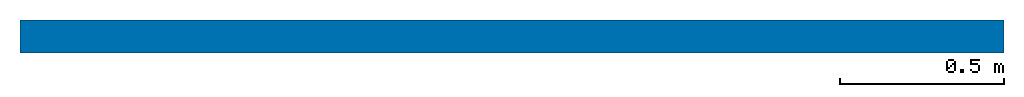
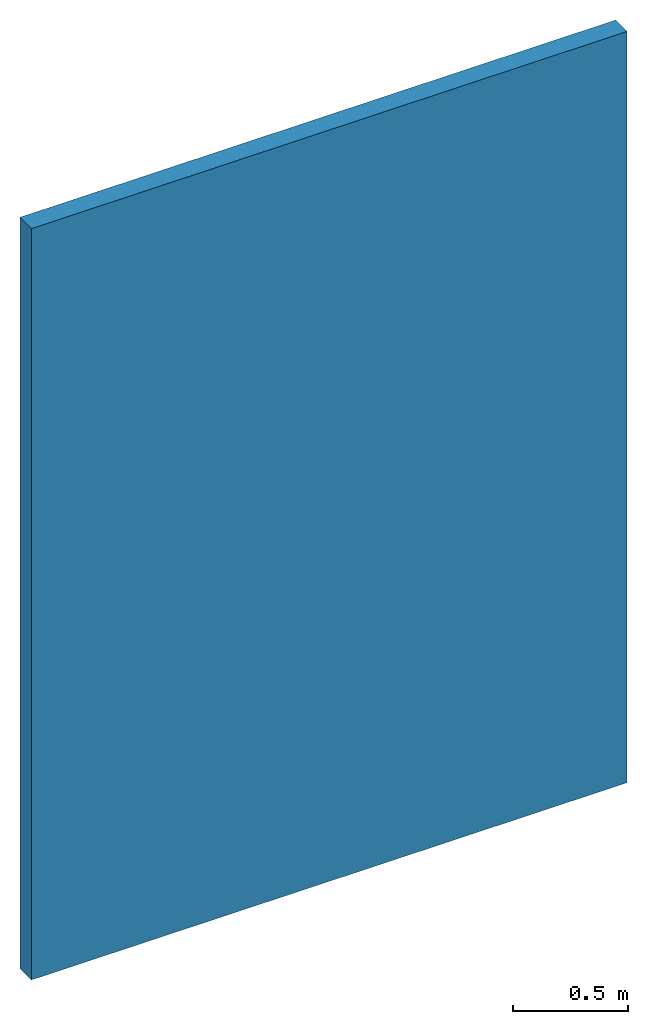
# One storey: 1 wall.
"""IFC2X3 building model written with IfcOpenShell, lengths in millimetres."""

import ifcopenshell
import ifcopenshell.guid

model = None  # the IFC model being written
_history = None  # IfcOwnerHistory: only IFC2X3 demands one
_inside = {}  # id of a spatial element -> (the spatial element, [elements in it])
_under = {}  # id of a project, library or spatial element -> (it, [spatial elements below it])
_declared = {}  # id of a project -> (the project, [libraries it declares])
_typed = {}  # id of a type object -> (the type object, [elements of that type])
_made_of = {}  # id of a material, layer set ... -> (it, [elements and type objects made of it])


def new_model(schema):
    """Start an empty IFC model of exactly this schema.

    Asked for "IFC4X3", IfcOpenShell would pick the latest addendum, in which some entities
    have other attributes; the version numbers below select the first issue.
    IFC2X3 requires an IfcOwnerHistory on every rooted entity: one is made here for all.
    """
    global model, _history
    if schema == "IFC4X3":
        model = ifcopenshell.file(schema_version=(4, 3, 0, 0))
    else:
        model = ifcopenshell.file(schema=schema)
    _inside.clear()
    _under.clear()
    _declared.clear()
    _typed.clear()
    _made_of.clear()
    _history = None
    if model.schema == "IFC2X3":
        org = make("IfcOrganization", Name="unknown")
        user = make(
            "IfcPersonAndOrganization",
            ThePerson=make("IfcPerson", FamilyName="unknown"),
            TheOrganization=org,
        )
        app = make(
            "IfcApplication",
            ApplicationDeveloper=org,
            Version="unknown",
            ApplicationFullName="unknown",
            ApplicationIdentifier="unknown",
        )
        _history = make(
            "IfcOwnerHistory",
            OwningUser=user,
            OwningApplication=app,
            ChangeAction="ADDED",
            CreationDate=0,
        )
    return model


def make(cls, **values):
    """One entity of the class cls with the attributes given. An attribute that is None is left unset."""
    return model.create_entity(
        cls, **{name: value for name, value in values.items() if value is not None}
    )


def entity(cls, *values):
    """Any entity or typed value of the class cls, its attributes in the order of the schema. None: left unset."""
    e = model.create_entity(cls)
    for i, value in enumerate(values):
        if value is not None:
            e[i] = value
    return e


def rooted(cls, **values):
    """An entity with a GlobalId (a new one), such as an element, a storey or a relation."""
    return make(cls, GlobalId=ifcopenshell.guid.new(), OwnerHistory=_history, **values)


def si_unit(unit_type, name, prefix=None):
    """IfcSIUnit, for example si_unit("LENGTHUNIT", "METRE", prefix="MILLI")."""
    return make("IfcSIUnit", UnitType=unit_type, Prefix=prefix, Name=name)


def converted_unit(unit_type, name, factor, base, dimensions=None, offset=None):
    """IfcConversionBasedUnit, such as the inch: factor (a typed value) times the base unit."""
    return make(
        "IfcConversionBasedUnit"
        if offset is None
        else "IfcConversionBasedUnitWithOffset",
        ConversionOffset=offset,
        Dimensions=None
        if dimensions is None
        else entity("IfcDimensionalExponents", *dimensions),
        UnitType=unit_type,
        Name=name,
        ConversionFactor=make(
            "IfcMeasureWithUnit", ValueComponent=factor, UnitComponent=base
        ),
    )


def derived_unit(unit_type, elements):
    """IfcDerivedUnit: a product of units, each with its exponent."""
    return make(
        "IfcDerivedUnit",
        Elements=[
            make("IfcDerivedUnitElement", Unit=unit, Exponent=power)
            for unit, power in elements
        ],
        UnitType=unit_type,
    )


def assignment(units):
    """IfcUnitAssignment: the units of a project."""
    return None if units is None else make("IfcUnitAssignment", Units=units)


def point(xyz):
    """IfcCartesianPoint."""
    return None if xyz is None else make("IfcCartesianPoint", Coordinates=xyz)


def direction(xyz):
    """IfcDirection."""
    return None if xyz is None else make("IfcDirection", DirectionRatios=xyz)


def frame(location, z_axis=None, x_axis=None):
    """IfcAxis2Placement3D, a coordinate frame: its origin and axes. An axis left out is left unset."""
    return make(
        "IfcAxis2Placement3D",
        Location=point(location),
        Axis=direction(z_axis),
        RefDirection=direction(x_axis),
    )


def frame_2d(location, x_axis=None):
    """IfcAxis2Placement2D, a coordinate frame in the plane: its origin and x axis."""
    return make(
        "IfcAxis2Placement2D", Location=point(location), RefDirection=direction(x_axis)
    )


def origin():
    """The frame at (0, 0, 0) with its axes left unset."""
    return frame((0.0, 0.0, 0.0))


def place(relative_to, where):
    """IfcLocalPlacement: puts the frame where relative to a parent placement (None: the world)."""
    return make(
        "IfcLocalPlacement", PlacementRelTo=relative_to, RelativePlacement=where
    )


def context(
    kind, dimensions, precision=None, world=None, true_north=None, identifier=None
):
    """IfcGeometricRepresentationContext, for example the 3D "Model" context."""
    return make(
        "IfcGeometricRepresentationContext",
        ContextIdentifier=identifier,
        ContextType=kind,
        CoordinateSpaceDimension=dimensions,
        Precision=precision,
        WorldCoordinateSystem=world,
        TrueNorth=true_north,
    )


def subcontext(parent, identifier, kind, view, scale=None):
    """IfcGeometricRepresentationSubContext, for example "Body" below "Model"."""
    return make(
        "IfcGeometricRepresentationSubContext",
        ContextIdentifier=identifier,
        ContextType=kind,
        ParentContext=parent,
        TargetScale=scale,
        TargetView=view,
    )


def project(units=None, contexts=None):
    """IfcProject with its units and contexts."""
    return rooted(
        "IfcProject",
        Name="project",
        RepresentationContexts=contexts,
        UnitsInContext=assignment(units),
    )


def spatial(cls, under=None, at=None, **own):
    """A site, building, storey or space (cls), placed at a placement, below another one or the project."""
    s = rooted(cls, ObjectPlacement=at, **own)
    if under is not None:
        _under.setdefault(under.id(), (under, []))[1].append(s)
    return s


def profile(cls, at=None, kind="AREA", **sizes):
    """A parametric profile (cls). Its sizes go by their IFC names, for example OverallWidth=200.0."""
    return make(cls, ProfileType=kind, Position=at, **sizes)


def rectangle(**sizes):
    """IfcRectangleProfileDef."""
    return profile("IfcRectangleProfileDef", **sizes)


def extrude(swept, where, along, depth):
    """IfcExtrudedAreaSolid: the profile swept, set in the frame where, extruded along a direction by depth."""
    return make(
        "IfcExtrudedAreaSolid",
        SweptArea=swept,
        Position=where,
        ExtrudedDirection=direction(along),
        Depth=depth,
    )


def shape(context_of_items, identifier, shape_type, items):
    """IfcShapeRepresentation: the items that make up one representation, for example the "Body"."""
    return make(
        "IfcShapeRepresentation",
        ContextOfItems=context_of_items,
        RepresentationIdentifier=identifier,
        RepresentationType=shape_type,
        Items=items,
    )


def material(Name=None, Category=None):
    """IfcMaterial."""
    return make("IfcMaterial", Name=Name, Category=Category)


def layer(
    of_material, thickness, ventilated=None, Name=None, Category=None, Priority=None
):
    """IfcMaterialLayer: one layer of a wall or slab, of a material (None: an air gap)."""
    return make(
        "IfcMaterialLayer",
        Material=of_material,
        LayerThickness=thickness,
        IsVentilated=ventilated,
        Name=Name,
        Category=Category,
        Priority=Priority,
    )


def layer_set(layers, Name=None):
    """IfcMaterialLayerSet."""
    return make("IfcMaterialLayerSet", MaterialLayers=layers, LayerSetName=Name)


def layer_usage(for_layer_set, set_direction, sense, offset, extent=None):
    """IfcMaterialLayerSetUsage: how a layer set lies in its element."""
    return make(
        "IfcMaterialLayerSetUsage",
        ForLayerSet=for_layer_set,
        LayerSetDirection=set_direction,
        DirectionSense=sense,
        OffsetFromReferenceLine=offset,
        ReferenceExtent=extent,
    )


def made_of(thing, what):
    """Note that an element or type object is made of a material, layer set ...; save() writes the relation."""
    if what is not None:
        _made_of.setdefault(what.id(), (what, []))[1].append(thing)
    return thing


def type_object(cls, material=None, **own):
    """A type object (cls), such as IfcWallType, which elements share."""
    return made_of(rooted(cls, **own), material)


def element(
    cls,
    number,
    at=None,
    inside=None,
    cuts=None,
    type_object=None,
    material=None,
    context=None,
    identifier="Body",
    shape_type=None,
    held_by="IfcProductDefinitionShape",
    body=None,
    shapes=None,
    **own,
):
    """One element of the class cls, such as IfcWall. Its Tag is "e" and its number.

    at: its placement. inside: the storey or other place that contains it. cuts: it is an
    opening in that element (IfcRelVoidsElement). A single representation is given by context,
    identifier, shape_type and body (its items); several are given by shapes. held_by: the class
    of the entity that holds the representations. save() writes the other relations.
    """
    e = rooted(cls, Tag="e%d" % number, ObjectPlacement=at, **own)
    if body is not None:
        shapes = [shape(context, identifier, shape_type, body)]
    if shapes is not None:
        e.Representation = make(held_by, Representations=shapes)
    if inside is not None:
        _inside.setdefault(inside.id(), (inside, []))[1].append(e)
    if cuts is not None:
        rooted(
            "IfcRelVoidsElement", RelatingBuildingElement=cuts, RelatedOpeningElement=e
        )
    if type_object is not None:
        _typed.setdefault(type_object.id(), (type_object, []))[1].append(e)
    return made_of(e, material)


def aggregate(whole, parts):
    """IfcRelAggregates: a whole, such as a stair, and the parts it consists of."""
    return rooted("IfcRelAggregates", RelatingObject=whole, RelatedObjects=parts)


def save(model, path):
    """Write the relations noted so far, then the file.

    IfcRelAggregates (storeys below a building ...), IfcRelContainedInSpatialStructure (elements
    in a storey), IfcRelDefinesByType, IfcRelAssociatesMaterial and IfcRelDeclares: one each for
    every whole, place, type object, material and project.
    """
    for whole, parts in _under.values():
        aggregate(whole, parts)
    for where, things in _inside.values():
        rooted(
            "IfcRelContainedInSpatialStructure",
            RelatedElements=things,
            RelatingStructure=where,
        )
    for kind, things in _typed.values():
        rooted("IfcRelDefinesByType", RelatedObjects=things, RelatingType=kind)
    for what, things in _made_of.values():
        rooted("IfcRelAssociatesMaterial", RelatedObjects=things, RelatingMaterial=what)
    for by, libraries in _declared.values():
        rooted("IfcRelDeclares", RelatingContext=by, RelatedDefinitions=libraries)
    model.write(path)


model = new_model("IFC2X3")

# Units and contexts
model_context = context("Model", 3, precision=0.01, world=origin(), true_north=direction((6.12303176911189e-17, 1.0)))
body_context = subcontext(model_context, "Body", "Model", "MODEL_VIEW")
ifc_project = project(units=[si_unit("LENGTHUNIT", "METRE", prefix="MILLI"), si_unit("AREAUNIT", "SQUARE_METRE"), si_unit("VOLUMEUNIT", "CUBIC_METRE"), converted_unit("PLANEANGLEUNIT", "DEGREE", entity("IfcRatioMeasure", 0.0174532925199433), si_unit("PLANEANGLEUNIT", "RADIAN"), dimensions=[0, 0, 0, 0, 0, 0, 0]), si_unit("MASSUNIT", "GRAM", prefix="KILO"), si_unit("TIMEUNIT", "SECOND"), si_unit("FREQUENCYUNIT", "HERTZ"), si_unit("THERMODYNAMICTEMPERATUREUNIT", "DEGREE_CELSIUS"), derived_unit("THERMALTRANSMITTANCEUNIT", [(si_unit("MASSUNIT", "GRAM", prefix="KILO"), 1), (si_unit("THERMODYNAMICTEMPERATUREUNIT", "KELVIN"), -1), (si_unit("TIMEUNIT", "SECOND"), -3)]), derived_unit("VOLUMETRICFLOWRATEUNIT", [(si_unit("LENGTHUNIT", "METRE"), 3), (si_unit("TIMEUNIT", "SECOND"), -1)]), si_unit("ELECTRICCURRENTUNIT", "AMPERE"), si_unit("ELECTRICVOLTAGEUNIT", "VOLT"), si_unit("POWERUNIT", "WATT"), si_unit("FORCEUNIT", "NEWTON", prefix="KILO"), si_unit("ILLUMINANCEUNIT", "LUX"), si_unit("LUMINOUSFLUXUNIT", "LUMEN"), si_unit("LUMINOUSINTENSITYUNIT", "CANDELA"), derived_unit("USERDEFINED", [(si_unit("MASSUNIT", "GRAM", prefix="KILO"), -1), (si_unit("LENGTHUNIT", "METRE"), -2), (si_unit("TIMEUNIT", "SECOND"), 3), (si_unit("LUMINOUSFLUXUNIT", "LUMEN"), 1)]), derived_unit("LINEARVELOCITYUNIT", [(si_unit("LENGTHUNIT", "METRE"), 1), (si_unit("TIMEUNIT", "SECOND"), -1)]), si_unit("PRESSUREUNIT", "PASCAL"), derived_unit("USERDEFINED", [(si_unit("LENGTHUNIT", "METRE"), -2), (si_unit("MASSUNIT", "GRAM", prefix="KILO"), 1), (si_unit("TIMEUNIT", "SECOND"), -2)])], contexts=[model_context])

# Site, building, storey
site_placement = place(None, origin())
site = spatial("IfcSite", under=ifc_project, at=site_placement, Name="Default", CompositionType="ELEMENT")
building_placement = place(site_placement, origin())
building = spatial("IfcBuilding", under=site, at=building_placement, CompositionType="ELEMENT")
storey_placement = place(building_placement, origin())
storey = spatial("IfcBuildingStorey", under=building, at=storey_placement, Name="Уровень 1", CompositionType="ELEMENT", Elevation=0.0)

# Wall
ifc_material_1 = material(Name="КНАУФ-суперлист")
ifc_layer_1 = layer(ifc_material_1, 12.5)
ifc_layer_2 = layer(ifc_material_1, 12.5)
ifc_material_2 = material(Name="Luft")
ifc_layer_3 = layer(ifc_material_2, 25.0)
ifc_material_3 = material(Name="КНАУФ-профиль+мин.вата 50@600mm")
ifc_layer_4 = layer(ifc_material_3, 50.0)
ifc_layer_set = layer_set([ifc_layer_1, ifc_layer_2, ifc_layer_3, ifc_layer_4], Name="Базовая стена:Облицовка КНАУФ С666 Применение внутри здания ПC75/50 ПН75х40 шаг 600 ГВЛВ 12.5")
ifc_layer_usage = layer_usage(ifc_layer_set, "AXIS2", "NEGATIVE", 50.0)
wall_type = type_object("IfcWallType", Name="Базовая стена:Облицовка КНАУФ С666 Применение внутри здания ПC75/50 ПН75х40 шаг 600 ГВЛВ 12.5", PredefinedType="STANDARD", material=ifc_layer_set)
wall_placement = place(storey_placement, frame((2432.04333225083, -960.952643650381, 0.0)))
element("IfcWallStandardCase", 1, at=wall_placement, inside=storey, type_object=wall_type, material=ifc_layer_usage, Name="Базовая стена:Облицовка КНАУФ С666 Применение внутри здания ПC75/50 ПН75х40 шаг 600 ГВЛВ 12.5", ObjectType="Базовая стена:Облицовка КНАУФ С666 Применение внутри здания ПC75/50 ПН75х40 шаг 600 ГВЛВ 12.5", context=body_context, shape_type="SweptSolid", body=[
    extrude(rectangle(XDim=3000.0, YDim=100.0, at=frame_2d((1500.0, 0.0), x_axis=(-1.0, 0.0))), origin(), (0.0, 0.0, 1.0), 4000.0),
])

save(model, "model.ifc")
